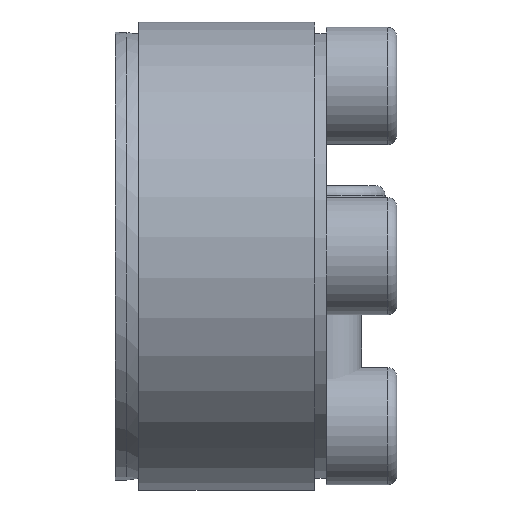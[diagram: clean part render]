
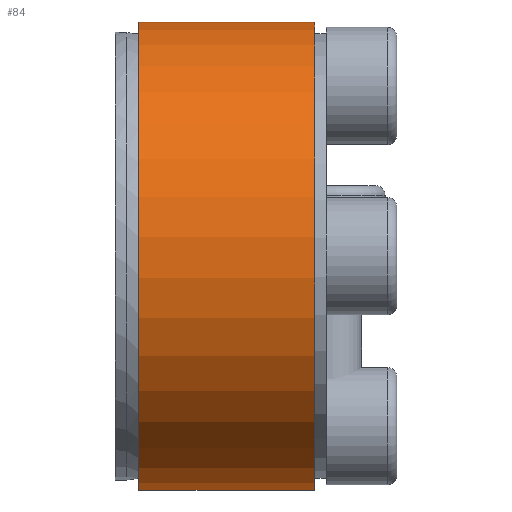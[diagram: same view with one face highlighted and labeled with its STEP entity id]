
A CAD part, left-side view. The second image highlights one B-rep face of the part: STEP entity #84.
In plain terms, the highlighted cylindrical face has radius 20 mm (diameter 40 mm), a partial arc.
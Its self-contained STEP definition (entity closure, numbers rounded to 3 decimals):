
#84 = ADVANCED_FACE( '', ( #171 ), #172, .T. );
#171 = FACE_OUTER_BOUND( '', #281, .T. );
#172 = CYLINDRICAL_SURFACE( '', #282, 20. );
#281 = EDGE_LOOP( '', ( #464, #465, #466, #467 ) );
#282 = AXIS2_PLACEMENT_3D( '', #468, #469, #470 );
#464 = ORIENTED_EDGE( '', *, *, #685, .F. );
#465 = ORIENTED_EDGE( '', *, *, #695, .T. );
#466 = ORIENTED_EDGE( '', *, *, #673, .T. );
#467 = ORIENTED_EDGE( '', *, *, #696, .F. );
#468 = CARTESIAN_POINT( '', ( 0., -60., 0. ) );
#469 = DIRECTION( '', ( 0., 1., 0. ) );
#470 = DIRECTION( '', ( 0., 0., -1. ) );
#673 = EDGE_CURVE( '', #816, #831, #833, .T. );
#685 = EDGE_CURVE( '', #851, #852, #853, .T. );
#695 = EDGE_CURVE( '', #851, #816, #867, .T. );
#696 = EDGE_CURVE( '', #852, #831, #868, .T. );
#816 = VERTEX_POINT( '', #1088 );
#831 = VERTEX_POINT( '', #1113 );
#833 = LINE( '', #1116, #1117 );
#851 = VERTEX_POINT( '', #1138 );
#852 = VERTEX_POINT( '', #1139 );
#853 = LINE( '', #1140, #1141 );
#867 = CIRCLE( '', #1163, 20. );
#868 = CIRCLE( '', #1164, 20. );
#1088 = CARTESIAN_POINT( '', ( 14.491, 16., 13.784 ) );
#1113 = CARTESIAN_POINT( '', ( 14.491, 1., 13.784 ) );
#1116 = CARTESIAN_POINT( '', ( 14.491, -60., 13.784 ) );
#1117 = VECTOR( '', #1268, 1000. );
#1138 = CARTESIAN_POINT( '', ( 13.784, 16., 14.491 ) );
#1139 = CARTESIAN_POINT( '', ( 13.784, 1., 14.491 ) );
#1140 = CARTESIAN_POINT( '', ( 13.784, -60., 14.491 ) );
#1141 = VECTOR( '', #1287, 1000. );
#1163 = AXIS2_PLACEMENT_3D( '', #1296, #1297, #1298 );
#1164 = AXIS2_PLACEMENT_3D( '', #1299, #1300, #1301 );
#1268 = DIRECTION( '', ( 0., -1., 0. ) );
#1287 = DIRECTION( '', ( 0., -1., 0. ) );
#1296 = CARTESIAN_POINT( '', ( 0., 16., 0. ) );
#1297 = DIRECTION( '', ( 0., -1., 0. ) );
#1298 = DIRECTION( '', ( 0., 0., -1. ) );
#1299 = CARTESIAN_POINT( '', ( 0., 1., 0. ) );
#1300 = DIRECTION( '', ( 0., -1., 0. ) );
#1301 = DIRECTION( '', ( 0., 0., -1. ) );
